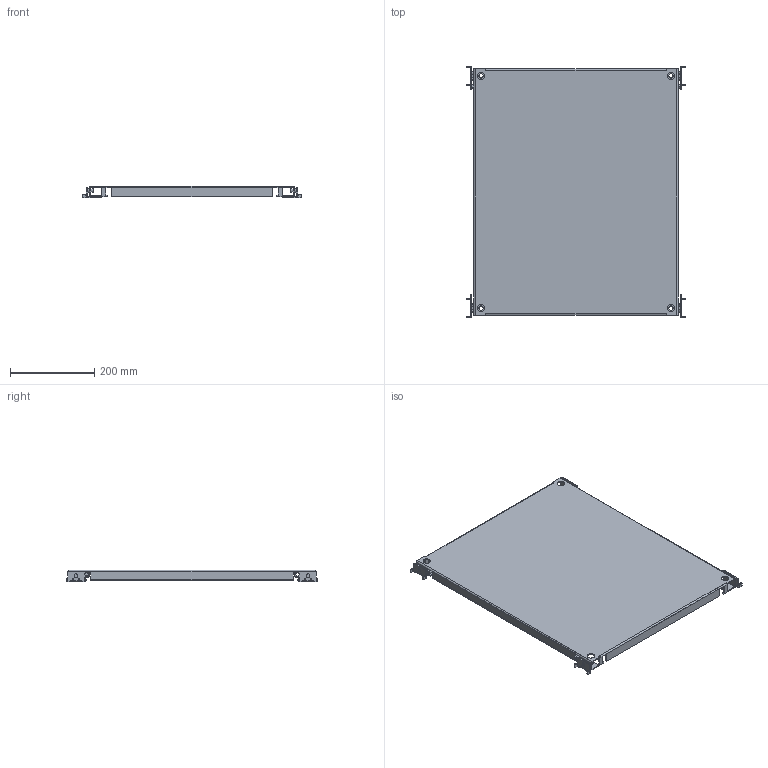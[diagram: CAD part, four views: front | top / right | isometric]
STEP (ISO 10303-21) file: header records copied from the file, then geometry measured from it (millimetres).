
FILE_DESCRIPTION (( 'STEP AP203' ), '1' );
FILE_NAME ('EUPZ-060070.step', '2015-11-24T08:38:36', ( 'Admin' ), ( '' ), 'SwSTEP 2.0', 'SolidWorks 2015', '' );
FILE_SCHEMA (( 'CONFIG_CONTROL_DESIGN' ));
Length unit declared in the file: millimetre
Products named in the file (9): AR_Squadretta_fissaggio_piastra_parziale_ENUX_SX; AR_Montaggio_squadretta_fissaggio_piastra_parziale_ENUX_SX_SUP_CON_PERNO; AR_Squadretta_fissaggio_piastra_parziale_ENUX_DX; AR_Montaggio_squadretta_fissaggio_piastra_parziale_ENUX_DX_SUP_CON_PERNO; AR_Montaggio_squadretta_fissaggio_piastra_parziale_ENUX_DX_INF_SENZA_PERNO; AR_Montaggio_squadretta_fissaggio_piastra_parziale_ENUX_SX_INF_SENZA_PERNO; EUPZ-060070; Perno_squadretta_piastra_parziale_ENUX; AR_Piastra_parziale_ENUX_0600x0700
Assembly tree (11 placements, depth 3):
  EUPZ-060070
    AR_Piastra_parziale_ENUX_0600x0700
    AR_Montaggio_squadretta_fissaggio_piastra_parziale_ENUX_SX_SUP_CON_PERNO
      AR_Squadretta_fissaggio_piastra_parziale_ENUX_SX
    AR_Montaggio_squadretta_fissaggio_piastra_parziale_ENUX_DX_SUP_CON_PERNO
      AR_Squadretta_fissaggio_piastra_parziale_ENUX_DX
    AR_Montaggio_squadretta_fissaggio_piastra_parziale_ENUX_DX_INF_SENZA_PERNO
      AR_Squadretta_fissaggio_piastra_parziale_ENUX_SX
    AR_Montaggio_squadretta_fissaggio_piastra_parziale_ENUX_SX_INF_SENZA_PERNO
      AR_Squadretta_fissaggio_piastra_parziale_ENUX_DX
    Perno_squadretta_piastra_parziale_ENUX  x2
Bounding box: 517 x 595.5 x 27.5 mm (x, y, z)
Volume: 889711.5 mm3; surface area: 723977.3 mm2
Topology: 7 solids, 7 shells, 550 faces, 1412 edges, 876 vertices
Faces by surface type: plane 362, cylinder 180, cone 8
Entity records: 11667 total; most frequent: CARTESIAN_POINT 1906, DIRECTION 1844, ORIENTED_EDGE 1808, EDGE_CURVE 904, LINE 672, VECTOR 672, AXIS2_PLACEMENT_3D 586, VERTEX_POINT 552
